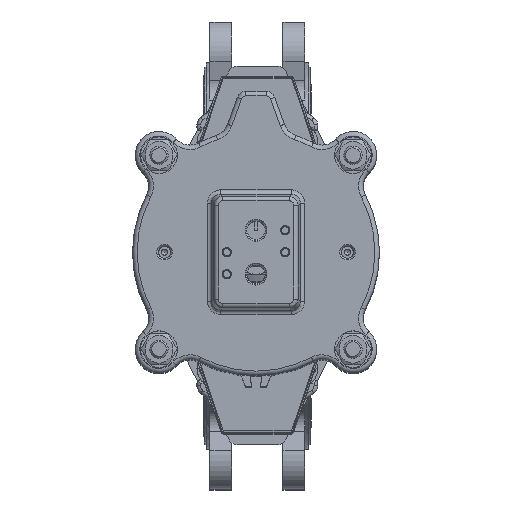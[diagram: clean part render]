
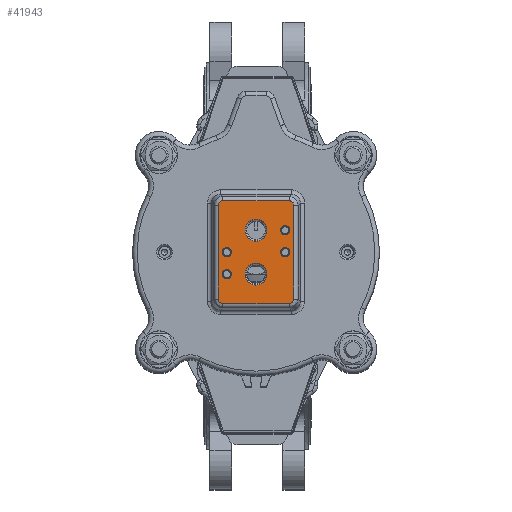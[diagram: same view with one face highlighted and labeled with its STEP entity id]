
A CAD part, top view. The second image highlights one B-rep face of the part: STEP entity #41943.
In plain terms, the highlighted planar face has unit normal (0, 0, 1).
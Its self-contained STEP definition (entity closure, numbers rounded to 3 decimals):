
#970=ELLIPSE('',#46982,2.673,2.5);
#971=ELLIPSE('',#46983,2.673,2.5);
#972=ELLIPSE('',#46984,2.673,2.5);
#973=ELLIPSE('',#46985,2.673,2.5);
#1258=FACE_BOUND('',#13706,.T.);
#1259=FACE_BOUND('',#13707,.T.);
#1260=FACE_BOUND('',#13708,.T.);
#1261=FACE_BOUND('',#13709,.T.);
#1262=FACE_BOUND('',#13710,.T.);
#1263=FACE_BOUND('',#13711,.T.);
#2639=PLANE('',#46981);
#5274=LINE('',#78598,#7973);
#5275=LINE('',#78602,#7974);
#5276=LINE('',#78606,#7975);
#5277=LINE('',#78609,#7976);
#7973=VECTOR('',#59604,10.);
#7974=VECTOR('',#59607,10.);
#7975=VECTOR('',#59610,10.);
#7976=VECTOR('',#59613,10.);
#11042=FACE_OUTER_BOUND('',#13705,.T.);
#13705=EDGE_LOOP('',(#38716,#38717,#38718,#38719,#38720,#38721,#38722,#38723));
#13706=EDGE_LOOP('',(#38724));
#13707=EDGE_LOOP('',(#38725));
#13708=EDGE_LOOP('',(#38726));
#13709=EDGE_LOOP('',(#38727));
#13710=EDGE_LOOP('',(#38728));
#13711=EDGE_LOOP('',(#38729));
#16380=CIRCLE('',#46980,2.5);
#16381=CIRCLE('',#46986,2.5);
#16382=CIRCLE('',#46987,2.5);
#16383=CIRCLE('',#46988,6.);
#16384=CIRCLE('',#46989,6.);
#16385=CIRCLE('',#46990,2.5);
#20376=VERTEX_POINT('',#78590);
#20377=VERTEX_POINT('',#78594);
#20378=VERTEX_POINT('',#78595);
#20379=VERTEX_POINT('',#78597);
#20380=VERTEX_POINT('',#78599);
#20381=VERTEX_POINT('',#78601);
#20382=VERTEX_POINT('',#78603);
#20383=VERTEX_POINT('',#78605);
#20384=VERTEX_POINT('',#78607);
#20385=VERTEX_POINT('',#78610);
#20386=VERTEX_POINT('',#78612);
#20387=VERTEX_POINT('',#78614);
#20388=VERTEX_POINT('',#78616);
#20389=VERTEX_POINT('',#78618);
#26530=EDGE_CURVE('',#20376,#20376,#16380,.T.);
#26531=EDGE_CURVE('',#20377,#20378,#970,.T.);
#26532=EDGE_CURVE('',#20379,#20377,#5274,.T.);
#26533=EDGE_CURVE('',#20380,#20379,#971,.T.);
#26534=EDGE_CURVE('',#20381,#20380,#5275,.T.);
#26535=EDGE_CURVE('',#20382,#20381,#972,.T.);
#26536=EDGE_CURVE('',#20383,#20382,#5276,.T.);
#26537=EDGE_CURVE('',#20384,#20383,#973,.T.);
#26538=EDGE_CURVE('',#20378,#20384,#5277,.T.);
#26539=EDGE_CURVE('',#20385,#20385,#16381,.T.);
#26540=EDGE_CURVE('',#20386,#20386,#16382,.T.);
#26541=EDGE_CURVE('',#20387,#20387,#16383,.T.);
#26542=EDGE_CURVE('',#20388,#20388,#16384,.T.);
#26543=EDGE_CURVE('',#20389,#20389,#16385,.T.);
#38716=ORIENTED_EDGE('',*,*,#26531,.F.);
#38717=ORIENTED_EDGE('',*,*,#26532,.F.);
#38718=ORIENTED_EDGE('',*,*,#26533,.F.);
#38719=ORIENTED_EDGE('',*,*,#26534,.F.);
#38720=ORIENTED_EDGE('',*,*,#26535,.F.);
#38721=ORIENTED_EDGE('',*,*,#26536,.F.);
#38722=ORIENTED_EDGE('',*,*,#26537,.F.);
#38723=ORIENTED_EDGE('',*,*,#26538,.F.);
#38724=ORIENTED_EDGE('',*,*,#26539,.F.);
#38725=ORIENTED_EDGE('',*,*,#26540,.F.);
#38726=ORIENTED_EDGE('',*,*,#26541,.F.);
#38727=ORIENTED_EDGE('',*,*,#26542,.F.);
#38728=ORIENTED_EDGE('',*,*,#26543,.F.);
#38729=ORIENTED_EDGE('',*,*,#26530,.F.);
#41943=ADVANCED_FACE('',(#11042,#1258,#1259,#1260,#1261,#1262,#1263),#2639,
 .F.);
#46980=AXIS2_PLACEMENT_3D('',#78592,#59598,#59599);
#46981=AXIS2_PLACEMENT_3D('',#78593,#59600,#59601);
#46982=AXIS2_PLACEMENT_3D('',#78596,#59602,#59603);
#46983=AXIS2_PLACEMENT_3D('',#78600,#59605,#59606);
#46984=AXIS2_PLACEMENT_3D('',#78604,#59608,#59609);
#46985=AXIS2_PLACEMENT_3D('',#78608,#59611,#59612);
#46986=AXIS2_PLACEMENT_3D('',#78611,#59614,#59615);
#46987=AXIS2_PLACEMENT_3D('',#78613,#59616,#59617);
#46988=AXIS2_PLACEMENT_3D('',#78615,#59618,#59619);
#46989=AXIS2_PLACEMENT_3D('',#78617,#59620,#59621);
#46990=AXIS2_PLACEMENT_3D('',#78619,#59622,#59623);
#59598=DIRECTION('center_axis',(0.,0.,
1.));
#59599=DIRECTION('ref_axis',(0.,-1.,0.));
#59600=DIRECTION('center_axis',(0.,0.,
-1.));
#59601=DIRECTION('ref_axis',(0.,-1.,0.));
#59602=DIRECTION('center_axis',(0.,0.,
-1.));
#59603=DIRECTION('ref_axis',(0.707,-0.707,0.));
#59604=DIRECTION('',(0.,-1.,0.));
#59605=DIRECTION('center_axis',(0.,0.,
-1.));
#59606=DIRECTION('ref_axis',(0.707,0.707,0.));
#59607=DIRECTION('',(1.,0.,0.));
#59608=DIRECTION('center_axis',(0.,0.,
-1.));
#59609=DIRECTION('ref_axis',(-0.707,0.707,0.));
#59610=DIRECTION('',(0.,1.,0.));
#59611=DIRECTION('center_axis',(0.,0.,
-1.));
#59612=DIRECTION('ref_axis',(-0.707,-0.707,0.));
#59613=DIRECTION('',(-1.,0.,0.));
#59614=DIRECTION('center_axis',(0.,0.,
1.));
#59615=DIRECTION('ref_axis',(0.,-1.,0.));
#59616=DIRECTION('center_axis',(0.,0.,
1.));
#59617=DIRECTION('ref_axis',(0.,-1.,0.));
#59618=DIRECTION('center_axis',(0.,0.,
1.));
#59619=DIRECTION('ref_axis',(0.,-1.,0.));
#59620=DIRECTION('center_axis',(0.,0.,
1.));
#59621=DIRECTION('ref_axis',(0.,-1.,0.));
#59622=DIRECTION('center_axis',(0.,0.,
1.));
#59623=DIRECTION('ref_axis',(0.,-1.,0.));
#78590=CARTESIAN_POINT('',(-16.733,-8.767,777.5));
#78592=CARTESIAN_POINT('Origin',(-16.733,-11.267,777.5));
#78593=CARTESIAN_POINT('Origin',(-0.733,0.733,777.5));
#78594=CARTESIAN_POINT('',(19.848,-24.934,777.5));
#78595=CARTESIAN_POINT('',(17.434,-27.348,777.5));
#78596=CARTESIAN_POINT('Origin',(17.26,-24.76,777.5));
#78597=CARTESIAN_POINT('',(19.848,26.4,777.5));
#78598=CARTESIAN_POINT('',(19.848,-14.267,777.5));
#78599=CARTESIAN_POINT('',(17.434,28.815,777.5));
#78600=CARTESIAN_POINT('Origin',(17.26,26.227,777.5));
#78601=CARTESIAN_POINT('',(-18.9,28.815,777.5));
#78602=CARTESIAN_POINT('',(10.517,28.815,777.5));
#78603=CARTESIAN_POINT('',(-21.315,26.4,777.5));
#78604=CARTESIAN_POINT('Origin',(-18.727,26.227,777.5));
#78605=CARTESIAN_POINT('',(-21.315,-24.934,777.5));
#78606=CARTESIAN_POINT('',(-21.315,15.733,777.5));
#78607=CARTESIAN_POINT('',(-18.9,-27.348,777.5));
#78608=CARTESIAN_POINT('Origin',(-18.727,-24.76,777.5));
#78609=CARTESIAN_POINT('',(-11.983,-27.348,777.5));
#78610=CARTESIAN_POINT('',(-16.733,3.233,777.5));
#78611=CARTESIAN_POINT('Origin',(-16.733,0.733,777.5));
#78612=CARTESIAN_POINT('',(15.267,15.233,777.5));
#78613=CARTESIAN_POINT('Origin',(15.267,12.733,777.5));
#78614=CARTESIAN_POINT('',(-0.733,18.733,777.5));
#78615=CARTESIAN_POINT('Origin',(-0.733,12.733,777.5));
#78616=CARTESIAN_POINT('',(-0.733,-5.267,777.5));
#78617=CARTESIAN_POINT('Origin',(-0.733,-11.267,777.5));
#78618=CARTESIAN_POINT('',(15.267,3.233,777.5));
#78619=CARTESIAN_POINT('Origin',(15.267,0.733,777.5));
